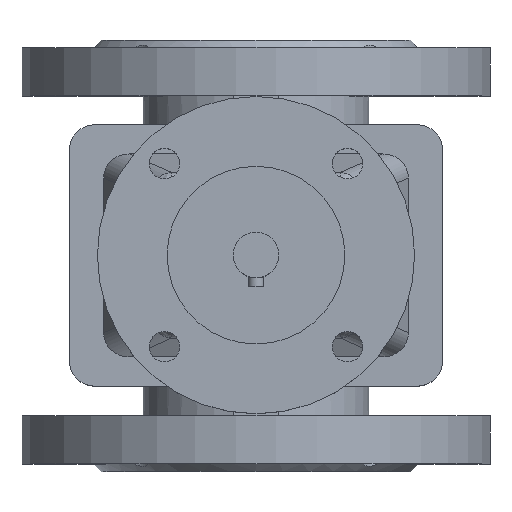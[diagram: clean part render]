
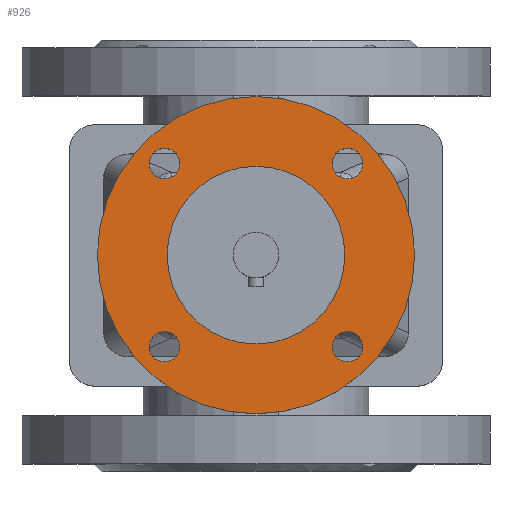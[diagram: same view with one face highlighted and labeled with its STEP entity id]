
A CAD part, top view. The second image highlights one B-rep face of the part: STEP entity #926.
In plain terms, the highlighted planar face has unit normal (0, 0, 1).
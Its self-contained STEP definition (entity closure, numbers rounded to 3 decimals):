
#926=ADVANCED_FACE('',(#2253,#2255,#2257,#2259,#2261,#2263),#2265,.T.);
#2253=FACE_BOUND('',#2254,.T.);
#2254=EDGE_LOOP('',(#2828));
#2255=FACE_BOUND('',#2256,.T.);
#2256=EDGE_LOOP('',(#2829));
#2257=FACE_BOUND('',#2258,.T.);
#2258=EDGE_LOOP('',(#2830));
#2259=FACE_BOUND('',#2260,.T.);
#2260=EDGE_LOOP('',(#2831));
#2261=FACE_BOUND('',#2262,.T.);
#2262=EDGE_LOOP('',(#2832));
#2263=FACE_BOUND('',#2264,.T.);
#2264=EDGE_LOOP('',(#2833));
#2265=PLANE('',#2266);
#2266=AXIS2_PLACEMENT_3D('',#2267,#2268,#2269);
#2267=CARTESIAN_POINT('',(0.,0.,191.));
#2268=DIRECTION('',(0.,0.,1.));
#2269=DIRECTION('',(1.,0.,0.));
#2828=ORIENTED_EDGE('',*,*,#3106,.F.);
#2829=ORIENTED_EDGE('',*,*,#3107,.T.);
#2830=ORIENTED_EDGE('',*,*,#3108,.T.);
#2831=ORIENTED_EDGE('',*,*,#3109,.T.);
#2832=ORIENTED_EDGE('',*,*,#3111,.T.);
#2833=ORIENTED_EDGE('',*,*,#3110,.T.);
#3106=EDGE_CURVE('',#3532,#3532,#3533,.T.);
#3107=EDGE_CURVE('',#3534,#3534,#3535,.F.);
#3108=EDGE_CURVE('',#3536,#3536,#3537,.F.);
#3109=EDGE_CURVE('',#3538,#3538,#3539,.F.);
#3110=EDGE_CURVE('',#3540,#3540,#3541,.F.);
#3111=EDGE_CURVE('',#3542,#3542,#3543,.T.);
#3532=VERTEX_POINT('',#5162);
#3533=CIRCLE('',#5163,62.5);
#3534=VERTEX_POINT('',#5167);
#3535=CIRCLE('',#5168,6.);
#3536=VERTEX_POINT('',#5172);
#3537=CIRCLE('',#5173,6.);
#3538=VERTEX_POINT('',#5177);
#3539=CIRCLE('',#5178,6.);
#3540=VERTEX_POINT('',#5182);
#3541=CIRCLE('',#5183,6.);
#3542=VERTEX_POINT('',#5187);
#3543=CIRCLE('',#5188,35.);
#5162=CARTESIAN_POINT('',(62.5,0.,191.));
#5163=AXIS2_PLACEMENT_3D('',#5164,#5165,#5166);
#5164=CARTESIAN_POINT('',(0.,0.,191.));
#5165=DIRECTION('',(0.,0.,-1.));
#5166=DIRECTION('',(1.,0.,0.));
#5167=CARTESIAN_POINT('',(36.062,30.062,191.));
#5168=AXIS2_PLACEMENT_3D('',#5169,#5170,#5171);
#5169=CARTESIAN_POINT('',(36.062,36.062,191.));
#5170=DIRECTION('',(0.,0.,1.));
#5171=DIRECTION('',(0.,-1.,0.));
#5172=CARTESIAN_POINT('',(30.062,-36.062,191.));
#5173=AXIS2_PLACEMENT_3D('',#5174,#5175,#5176);
#5174=CARTESIAN_POINT('',(36.062,-36.062,191.));
#5175=DIRECTION('',(0.,0.,1.));
#5176=DIRECTION('',(-1.,0.,0.));
#5177=CARTESIAN_POINT('',(-36.062,-30.062,191.));
#5178=AXIS2_PLACEMENT_3D('',#5179,#5180,#5181);
#5179=CARTESIAN_POINT('',(-36.062,-36.062,191.));
#5180=DIRECTION('',(0.,0.,1.));
#5181=DIRECTION('',(0.,1.,0.));
#5182=CARTESIAN_POINT('',(-30.062,36.062,191.));
#5183=AXIS2_PLACEMENT_3D('',#5184,#5185,#5186);
#5184=CARTESIAN_POINT('',(-36.062,36.062,191.));
#5185=DIRECTION('',(0.,0.,1.));
#5186=DIRECTION('',(1.,0.,0.));
#5187=CARTESIAN_POINT('',(35.,0.,191.));
#5188=AXIS2_PLACEMENT_3D('',#5189,#5190,#5191);
#5189=CARTESIAN_POINT('',(0.,0.,191.));
#5190=DIRECTION('',(0.,0.,-1.));
#5191=DIRECTION('',(1.,0.,0.));
